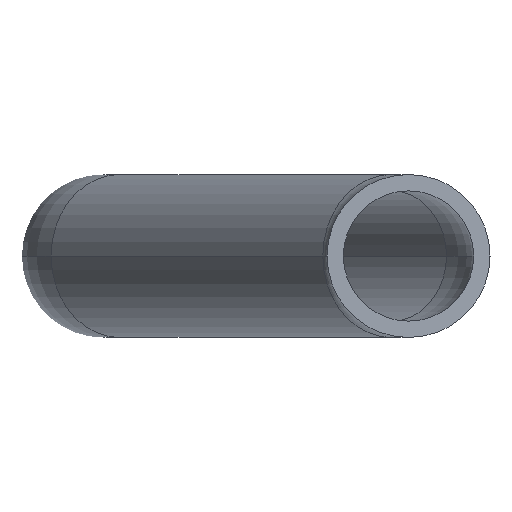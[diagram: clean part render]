
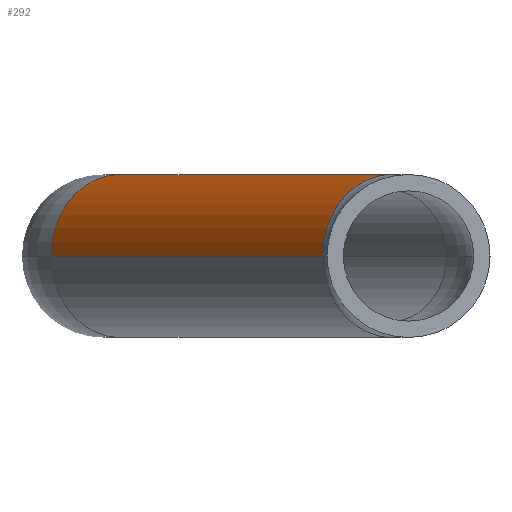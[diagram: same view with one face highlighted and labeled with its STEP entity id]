
A CAD part, left-side view. The second image highlights one B-rep face of the part: STEP entity #292.
In plain terms, the highlighted cylindrical face has radius 7.5 mm (diameter 15 mm), a partial arc.
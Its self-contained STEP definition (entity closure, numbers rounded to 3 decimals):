
#42 = VERTEX_POINT ( 'NONE', #713 ) ;
#57 = DIRECTION ( 'NONE',  ( -0.843, -0.537, 0. ) ) ;
#74 = EDGE_CURVE ( 'NONE', #960, #42, #468, .T. ) ;
#89 = DIRECTION ( 'NONE',  ( 0.843, 0.537, 0. ) ) ;
#138 = DIRECTION ( 'NONE',  ( 0.843, 0.537, 0. ) ) ;
#144 = CARTESIAN_POINT ( 'NONE',  ( -44.627, 1.566, 0. ) ) ;
#186 = EDGE_CURVE ( 'NONE', #804, #765, #691, .T. ) ;
#210 = CARTESIAN_POINT ( 'NONE',  ( -1.343, 20.251, 0. ) ) ;
#218 = VECTOR ( 'NONE', #619, 1000. ) ;
#237 = AXIS2_PLACEMENT_3D ( 'NONE', #604, #138, #612 ) ;
#272 = CIRCLE ( 'NONE', #1202, 7.5 ) ;
#292 = ADVANCED_FACE ( 'NONE', ( #316 ), #719, .T. ) ;
#316 = FACE_OUTER_BOUND ( 'NONE', #1074, .T. ) ;
#435 = EDGE_CURVE ( 'NONE', #804, #960, #272, .T. ) ;
#445 = DIRECTION ( 'NONE',  ( 0.537, -0.843, 0. ) ) ;
#468 = LINE ( 'NONE', #830, #218 ) ;
#485 = CARTESIAN_POINT ( 'NONE',  ( -40.596, -4.759, 0. ) ) ;
#604 = CARTESIAN_POINT ( 'NONE',  ( -44.627, 1.566, 0. ) ) ;
#608 = CIRCLE ( 'NONE', #782, 7.5 ) ;
#612 = DIRECTION ( 'NONE',  ( -0.537, 0.843, 0. ) ) ;
#619 = DIRECTION ( 'NONE',  ( 0.843, 0.537, 0. ) ) ;
#637 = DIRECTION ( 'NONE',  ( 0.537, -0.843, 0. ) ) ;
#654 = DIRECTION ( 'NONE',  ( -0.843, -0.537, 0. ) ) ;
#691 = LINE ( 'NONE', #485, #889 ) ;
#713 = CARTESIAN_POINT ( 'NONE',  ( -9.404, 32.902, 0. ) ) ;
#719 = CYLINDRICAL_SURFACE ( 'NONE', #237, 7.5 ) ;
#724 = ORIENTED_EDGE ( 'NONE', *, *, #435, .F. ) ;
#765 = VERTEX_POINT ( 'NONE', #210 ) ;
#782 = AXIS2_PLACEMENT_3D ( 'NONE', #1156, #654, #637 ) ;
#804 = VERTEX_POINT ( 'NONE', #919 ) ;
#830 = CARTESIAN_POINT ( 'NONE',  ( -48.657, 7.892, 0. ) ) ;
#866 = ORIENTED_EDGE ( 'NONE', *, *, #74, .F. ) ;
#889 = VECTOR ( 'NONE', #89, 1000. ) ;
#896 = EDGE_CURVE ( 'NONE', #765, #42, #608, .T. ) ;
#897 = ORIENTED_EDGE ( 'NONE', *, *, #186, .T. ) ;
#919 = CARTESIAN_POINT ( 'NONE',  ( -40.596, -4.759, 0. ) ) ;
#960 = VERTEX_POINT ( 'NONE', #981 ) ;
#973 = ORIENTED_EDGE ( 'NONE', *, *, #896, .T. ) ;
#981 = CARTESIAN_POINT ( 'NONE',  ( -48.657, 7.892, 0. ) ) ;
#1074 = EDGE_LOOP ( 'NONE', ( #724, #897, #973, #866 ) ) ;
#1156 = CARTESIAN_POINT ( 'NONE',  ( -5.373, 26.576, 0. ) ) ;
#1202 = AXIS2_PLACEMENT_3D ( 'NONE', #144, #57, #445 ) ;
